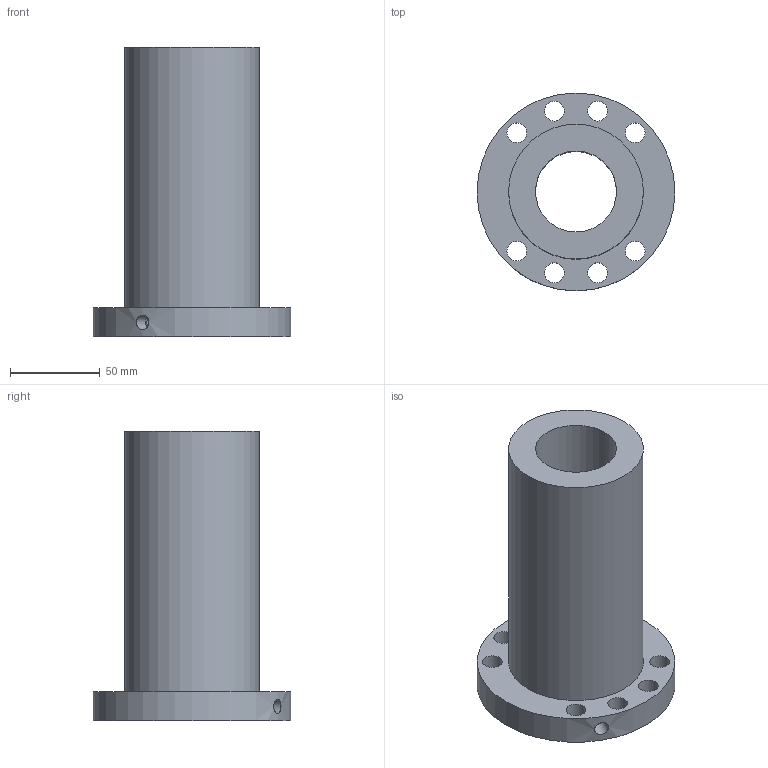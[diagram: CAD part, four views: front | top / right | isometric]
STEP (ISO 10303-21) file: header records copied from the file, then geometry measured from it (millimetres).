
FILE_DESCRIPTION(/* description */ (''),/* implementation_level */ '2;1');
FILE_NAME(/* name */ '45-10K5_635',/* time_stamp */ '2007-10-15T12:53:56+08:00',/* author */ (''),/* organization */ (''),/* preprocessor_version */ 'ST-DEVELOPER v11',/* originating_system */ 'UGS - NX 5.0',/* authorisation */ '');
FILE_SCHEMA (('CONFIG_CONTROL_DESIGN'));
Length unit declared in the file: millimetre
Products named in the file (1): 45-10K5_635
Bounding box: 110 x 110 x 161 mm (x, y, z)
Volume: 523281.9 mm3; surface area: 81802.4 mm2
Topology: 1 solids, 1 shells, 17 faces, 40 edges, 27 vertices
Faces by surface type: cylinder 13, plane 4
Full cylindrical faces by diameter (mm): 6 x1, 8 x1, 11 x8, 45 x1, 75 x1, 110 x1
Entity records: 668 total; most frequent: CARTESIAN_POINT 184, DIRECTION 84, FACE_BOUND 52, EDGE_LOOP 52, ORIENTED_EDGE 52, AXIS2_PLACEMENT_3D 42, VERTEX_POINT 26, EDGE_CURVE 26
